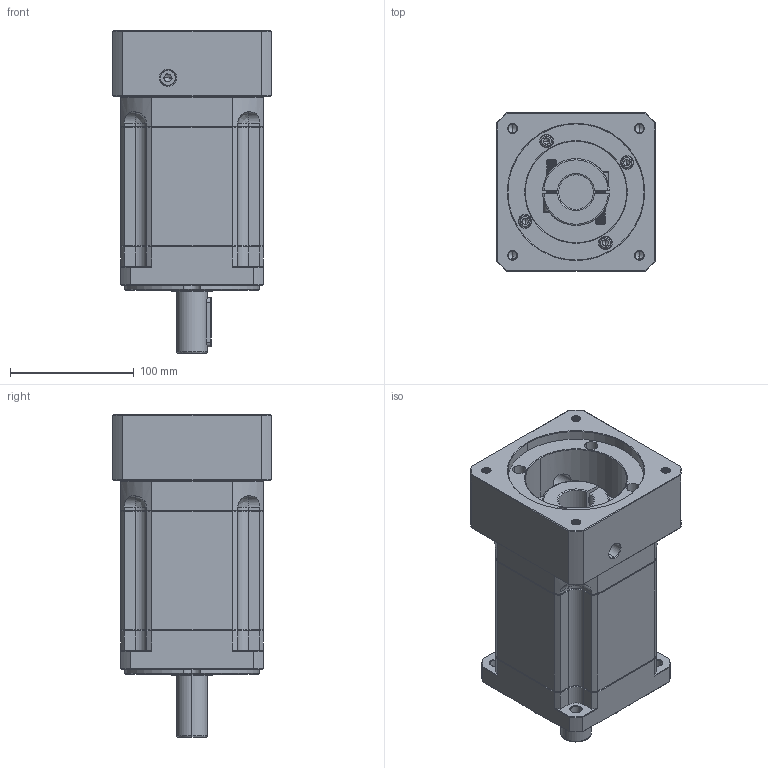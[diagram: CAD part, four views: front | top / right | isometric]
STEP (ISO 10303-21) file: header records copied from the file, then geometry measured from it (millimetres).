
FILE_DESCRIPTION (( 'STEP AP214' ), '1' );
FILE_NAME ('ZB115A-D25-L3-P2-28-110-145-M8.step', '2023-08-26T06:26:34', ( '' ), ( '' ), 'SwSTEP 2.0', 'SolidWorks 2016', '' );
FILE_SCHEMA (( 'AUTOMOTIVE_DESIGN' ));
Length unit declared in the file: millimetre
Products named in the file (1): ZB115A-D25-L3-P2-28-110-145-M8
Bounding box: 128 x 128 x 260.5 mm (x, y, z)
Volume: 2417437.2 mm3; surface area: 208230.4 mm2
Topology: 6 solids, 6 shells, 2390 faces, 6275 edges, 3984 vertices
Faces by surface type: plane 1143, cylinder 439, bspline 423, cone 365, torus 20
Entity records: 128742 total; most frequent: CARTESIAN_POINT 47138, ORIENTED_EDGE 12482, DIRECTION 9875, EDGE_CURVE 6241, VECTOR 3993, LINE 3993, VERTEX_POINT 3984, AXIS2_PLACEMENT_3D 2941
